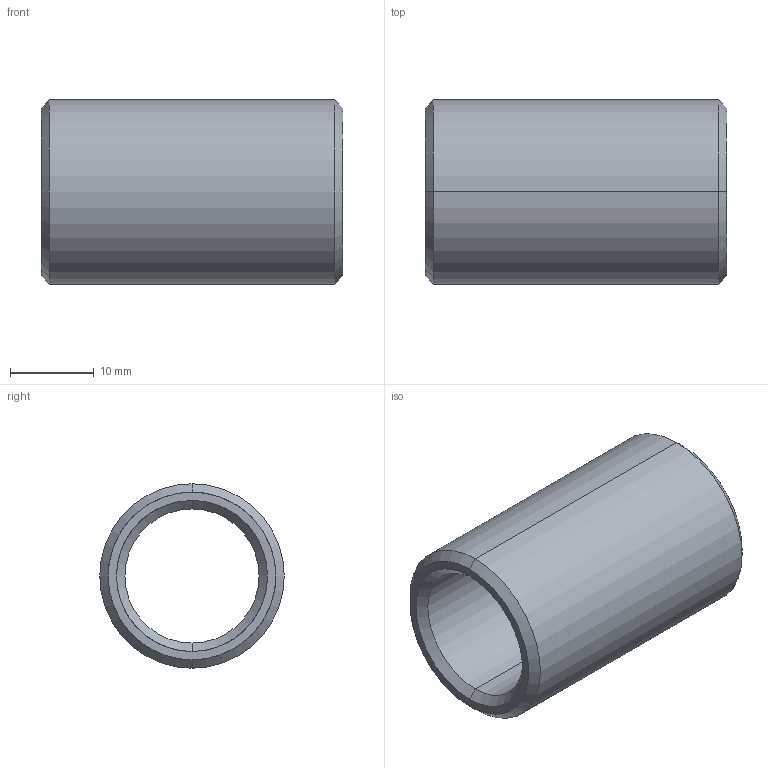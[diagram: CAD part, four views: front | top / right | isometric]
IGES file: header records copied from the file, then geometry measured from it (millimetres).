
Start section: START RECORD GO HERE.
Global section: file name: 352-16X36.igs; native system: DASSAULT SYSTEMES CATIA V5 R20 - www.3ds.com; preprocessor: CATIA Version 5 Release 20 ; author: Utente; organization: NB04-ASUS; date: 20210410.110739; units: millimetre
Bounding box: 36 x 22 x 22 mm (x, y, z)
Surface area: 4523 mm2 (no closed solid volume)
Topology: 0 solids, 0 shells, 14 faces, 88 edges, 88 vertices
Faces by surface type: revolution 12, plane 2
